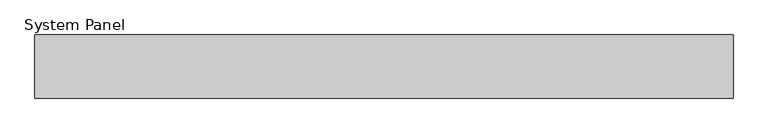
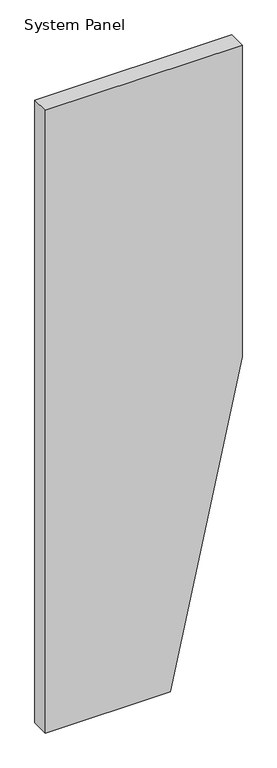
"""IFC4 building model written with IfcOpenShell, lengths in millimetres: plate geometry, System Panel : MetecnoPanel 100mm Vertical - Plain Astro - PIR."""

from ifc_helpers import new_model, si_unit, frame, origin, place, context, project, spatial, polyline, outline, extrude, source, transform, mapped, element, save


def system_panel_7543d43a(model_context):
    return source(origin(), model_context, "Body", "SweptSolid", [
        extrude(outline(polyline([(0.0, -550.0), (0.0, 150.0), (1839.9852118, 550.0), (3679.9704237, 550.0), (3679.9704237, -550.0), (0.0, -550.0)])), frame((0.0, -100.0, 0.0), z_axis=(0.0, 1.0, 0.0), x_axis=(0.0, 0.0, 1.0)), (0.0, 0.0, 1.0), 100.0),
    ])


if __name__ == "__main__":
    model = new_model("IFC4")
    model_context = context("Model", 3, world=origin())
    ifc_project = project(units=[si_unit("LENGTHUNIT", "METRE", prefix="MILLI")], contexts=[model_context])
    site = spatial("IfcSite", under=ifc_project)
    building = spatial("IfcBuilding", under=site)
    placement = place(None, origin())
    system_panel_shape = system_panel_7543d43a(model_context)
    element("IfcPlate", 1, ObjectType="System Panel : MetecnoPanel 100mm Vertical - Plain Astro - PIR", at=placement, inside=building, context=model_context, shape_type="MappedRepresentation", body=[
        mapped(system_panel_shape, transform((0.0, 0.0, 0.0), x_axis=(1.0, 0.0, 0.0), y_axis=(0.0, 1.0, 0.0), z_axis=(0.0, 0.0, 1.0))),
    ])
    save(model, "model.ifc")
